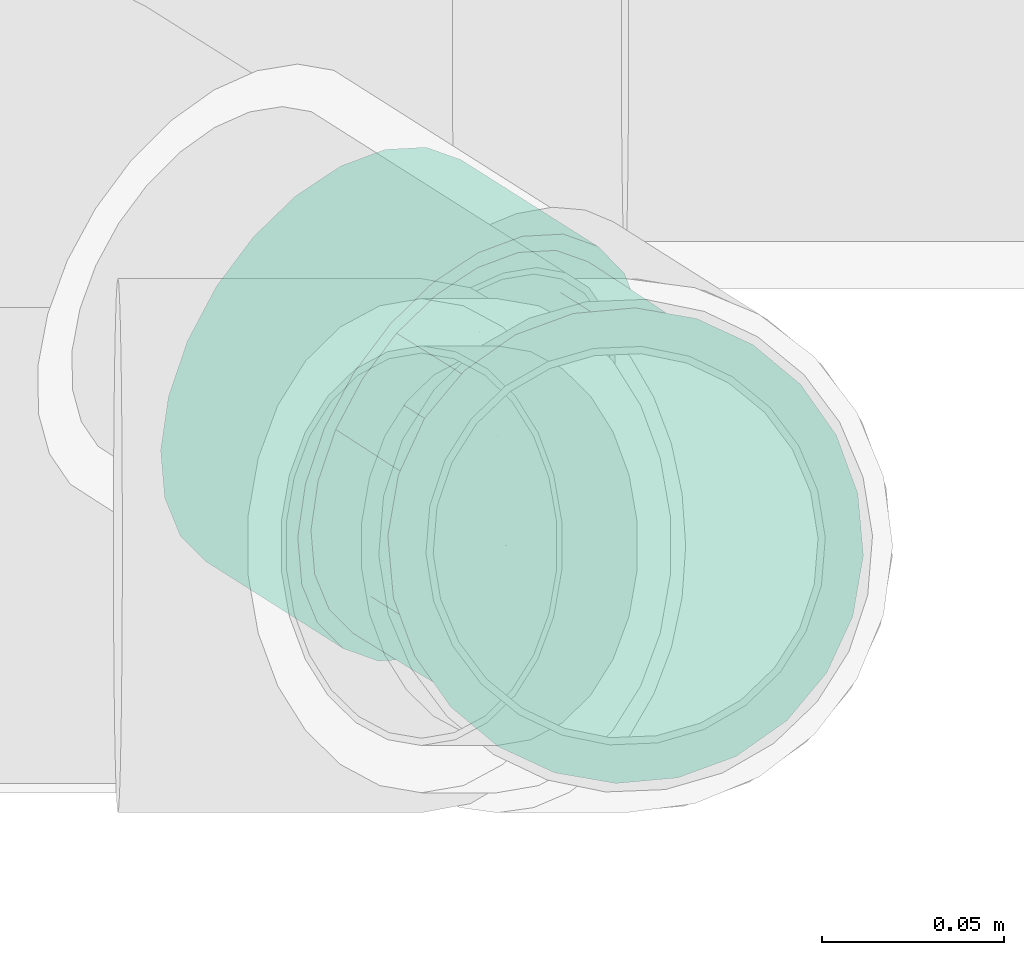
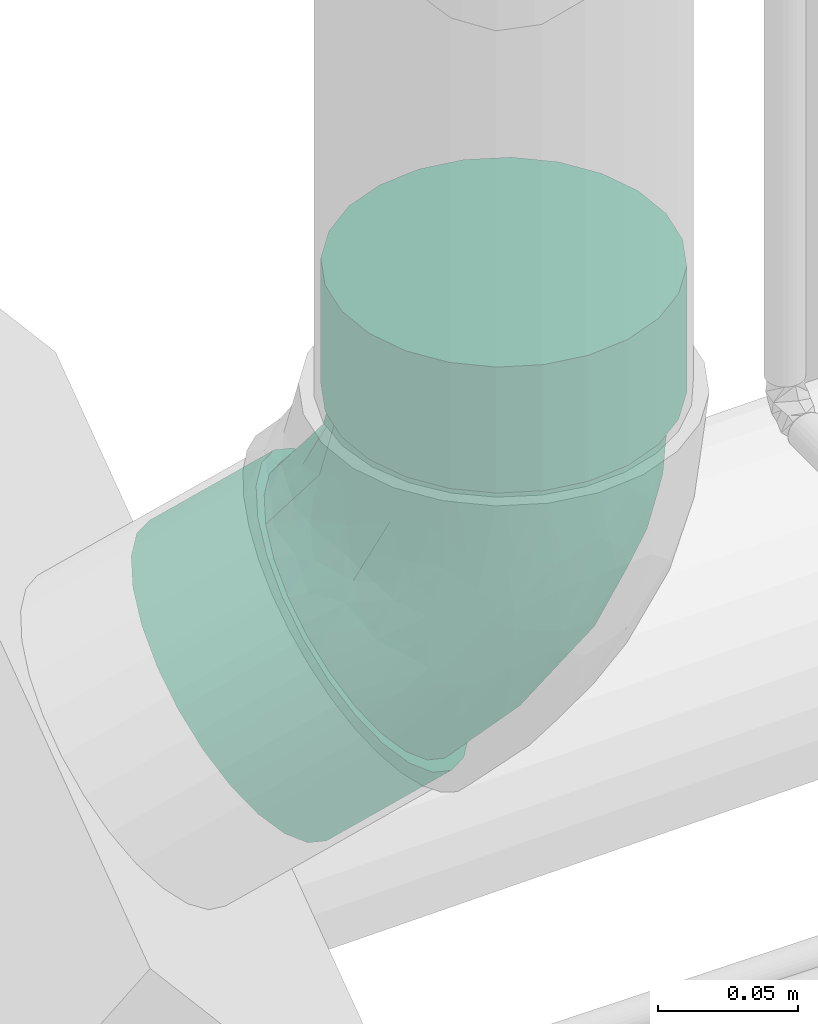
# One storey, part 113 of 156: 1 flow fitting.
"""IFC2X3 building model written with IfcOpenShell, lengths in millimetres."""

from ifc_helpers import new_model, entity, si_unit, converted_unit, derived_unit, direction, frame, origin_with_axes, place, context, subcontext, project, spatial, open_shell, surface_model, source, transform, mapped, type_object, element, save


model = new_model("IFC2X3")

# Units and contexts
model_context = context("Model", 3, precision=0.01, world=frame((0.0, 4.29681676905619e-09, 0.0)), true_north=direction((4.01073788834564e-13, 1.0)))
plan_context = context("Plan", 3, precision=0.01, world=frame((0.0, 4.29681676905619e-09, 0.0)), true_north=direction((4.01073788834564e-13, 1.0)))
body_context = subcontext(model_context, "Body", "Model", "MODEL_VIEW")
ifc_project = project(units=[converted_unit("PLANEANGLEUNIT", "DEGREE", entity("IfcPositiveLengthMeasure", 0.0174532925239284), si_unit("PLANEANGLEUNIT", "RADIAN"), dimensions=[0, 0, 0, 0, 0, 0, 0]), si_unit("AREAUNIT", "SQUARE_METRE"), si_unit("LENGTHUNIT", "METRE", prefix="MILLI"), si_unit("MASSUNIT", "GRAM", prefix="KILO"), si_unit("POWERUNIT", "WATT"), si_unit("PRESSUREUNIT", "PASCAL", prefix="KILO"), si_unit("FORCEUNIT", "NEWTON", prefix="KILO"), si_unit("ELECTRICVOLTAGEUNIT", "VOLT"), si_unit("ELECTRICCURRENTUNIT", "AMPERE"), si_unit("THERMODYNAMICTEMPERATUREUNIT", "DEGREE_CELSIUS"), si_unit("TIMEUNIT", "SECOND"), si_unit("VOLUMEUNIT", "CUBIC_METRE"), derived_unit("LINEARVELOCITYUNIT", [(si_unit("LENGTHUNIT", "METRE"), 1), (si_unit("TIMEUNIT", "SECOND"), -1)]), derived_unit("VOLUMETRICFLOWRATEUNIT", [(si_unit("VOLUMEUNIT", "CUBIC_METRE"), 1), (si_unit("TIMEUNIT", "SECOND"), -1)]), derived_unit("THERMALTRANSMITTANCEUNIT", [(si_unit("POWERUNIT", "WATT"), 1), (si_unit("THERMODYNAMICTEMPERATUREUNIT", "KELVIN"), -1), (si_unit("AREAUNIT", "SQUARE_METRE"), -1)]), derived_unit("SOUNDPRESSUREUNIT", [(si_unit("PRESSUREUNIT", "PASCAL"), 1)])], contexts=[model_context, plan_context])

# Site, building, storey
site_placement = place(None, frame((0.0, -4.29681676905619e-09, 0.0), z_axis=(0.0, 0.0, 1.0), x_axis=(1.0, 0.0, 0.0)))
site = spatial("IfcSite", under=ifc_project, at=site_placement, CompositionType="ELEMENT")
building_placement = place(site_placement, frame((0.0, 4.29681676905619e-09, 0.0), z_axis=(0.0, 0.0, 1.0), x_axis=(1.0, 0.0, 0.0)))
building = spatial("IfcBuilding", under=site, at=building_placement, Name="mc-building", CompositionType="ELEMENT")
storey_placement = place(building_placement, frame((0.0, 0.0, 205200.0), z_axis=(0.0, 0.0, 1.0), x_axis=(1.0, 0.0, 0.0)))
storey = spatial("IfcBuildingStorey", under=building, at=storey_placement, Name="Nivå D + 1,2 m", CompositionType="ELEMENT", Elevation=205200.0)

# Flow fitting
pipe_fitting_type = type_object("IfcPipeFittingType", Name="magi_sewer_bend_001", PredefinedType="BEND")
shared_shape = source(origin_with_axes(), body_context, "Body", "SurfaceModel", [
    surface_model("IfcShellBasedSurfaceModel", [(-117.11514, -16.95265, -63.26814), (-117.11514, -32.75, -56.72466), (-117.11514, -46.3155, -46.3155), (-117.11514, -63.26814, -16.95265), (-117.11514, 56.72466, -32.75), (-117.11514, 65.5, 0.0), (-117.11514, -56.72466, -32.75), (-117.11514, 16.95265, -63.26814), (-117.11514, 46.3155, -46.3155), (-117.11514, 32.75, -56.72466), (-117.11514, 0.0, -65.5), (-117.11514, 63.26814, -16.95265), (-117.11514, -65.5, 0.0), (-117.11514, -63.26814, 16.95265), (-117.11514, -56.72466, 32.75), (-117.11514, -46.3155, 46.3155), (-117.11514, -16.95265, 63.26814), (-117.11514, 0.0, 65.5), (-117.11514, -32.75, 56.72466), (-117.11514, 63.26814, 16.95265), (-117.11514, 46.3155, 46.3155), (-117.11514, 56.72466, 32.75), (-117.11514, 16.95265, 63.26814), (-117.11514, 32.75, 56.72466), (-62.11514, -16.95265, 63.26814), (-62.11514, 16.95265, 63.26814), (-62.11514, 0.0, 65.5), (-62.11514, -46.3155, 46.3155), (-62.11514, -32.75, 56.72466), (-62.11514, -56.72466, 32.75), (-62.11514, -63.26814, 16.95265), (-62.11514, 46.3155, 46.3155), (-62.11514, 32.75, 56.72466), (-62.11514, 63.26814, 16.95265), (-62.11514, 56.72466, 32.75), (-62.11514, 63.26814, -16.95265), (-62.11514, 65.5, 0.0), (-62.11514, -63.26814, -16.95265), (-62.11514, -16.95265, -63.26814), (-62.11514, -46.3155, -46.3155), (-62.11514, -56.72466, -32.75), (-62.11514, -32.75, -56.72466), (-62.11514, 56.72466, -32.75), (-62.11514, 0.0, -65.5), (-62.11514, 46.3155, -46.3155), (-62.11514, 16.95265, -63.26814), (-62.11514, 32.75, -56.72466), (-62.11514, -65.5, 0.0), (16.85363, 132.04079, 16.95265), (22.17063, 128.22678, 32.75), (30.62875, 122.15958, 46.3155), (41.65159, 114.25264, 56.72466), (54.48796, 105.04481, 63.26814), (30.62875, 122.15958, -46.3155), (41.65159, 114.25264, -56.72466), (68.26308, 95.1636, 65.5), (16.85363, 132.04079, -16.95265), (15.04011, 133.34168, 0.0), (22.17063, 128.22678, -32.75), (54.48796, 105.04481, -63.26814), (82.03819, 85.28239, -63.26814), (82.03819, 85.28239, 63.26814), (94.87456, 76.07456, 56.72466), (105.8974, 68.16762, 46.3155), (119.67251, 58.2864, 16.95265), (105.8974, 68.16762, -46.3155), (114.35552, 62.10041, 32.75), (119.67251, 58.2864, -16.95265), (121.48604, 56.98552, 0.0), (94.87456, 76.07456, -56.72466), (68.26308, 95.1636, -65.5), (114.35552, 62.10041, -32.75), (87.61458, 13.59536, 16.95265), (87.61458, 13.59536, -16.95265), (89.42811, 12.29448, 0.0), (73.83947, 23.47658, 46.3155), (82.29758, 17.40937, 32.75), (62.81663, 31.38352, 56.72466), (49.98026, 40.59134, 63.26814), (-15.20429, 87.34975, 16.95265), (49.98026, 40.59134, -63.26814), (73.83947, 23.47658, -46.3155), (82.29758, 17.40937, -32.75), (62.81663, 31.38352, -56.72466), (22.43003, 60.35377, -63.26814), (36.20514, 50.47256, -65.5), (22.43003, 60.35377, 63.26814), (9.59366, 69.5616, 56.72466), (-1.42918, 77.46854, 46.3155), (-9.8873, 83.53574, 32.75), (-1.42918, 77.46854, -46.3155), (9.59366, 69.5616, -56.72466), (-9.8873, 83.53574, -32.75), (-17.01782, 88.65064, 0.0), (-15.20429, 87.34975, -16.95265), (36.20514, 50.47256, 65.5), (-62.11514, 15.65855, -58.43851), (-62.11514, 0.0, -60.5), (-62.11514, 58.43851, -15.65855), (-62.11514, 30.25, -52.39454), (-62.11514, 52.39454, -30.25), (-62.11514, 42.77996, -42.77996), (-62.11514, -60.5, 0.0), (-62.11514, -30.25, -52.39454), (-62.11514, -42.77996, -42.77996), (-62.11514, -15.65855, -58.43851), (-62.11514, -58.43851, -15.65855), (-62.11514, -52.39454, -30.25), (-62.11514, -58.43851, 15.65855), (-62.11514, 58.43851, 15.65855), (-62.11514, 52.39454, 30.25), (-62.11514, 42.77996, 42.77996), (-62.11514, 30.25, 52.39454), (-62.11514, 15.65855, 58.43851), (-62.11514, -52.39454, 30.25), (-62.11514, -42.77996, 42.77996), (-62.11514, -30.25, 52.39454), (-62.11514, -15.65855, 58.43851), (-62.11514, 0.0, 60.5), (-62.11514, 60.5, 0.0), (36.20514, 50.47256, -60.5), (23.48156, 59.59948, -58.43851), (11.62507, 68.10442, -52.39454), (1.44367, 75.40777, -42.77996), (-6.36879, 81.01183, -30.25), (-11.27991, 84.53469, -15.65855), (60.78522, 32.8407, -52.39454), (83.6902, 16.41042, 15.65855), (70.96662, 25.53734, -42.77996), (85.36529, 15.20884, 0.0), (48.92873, 41.34563, -58.43851), (78.77908, 19.93328, -30.25), (83.6902, 16.41042, -15.65855), (-12.955, 85.73628, 0.0), (-11.27991, 84.53469, 15.65855), (-6.36879, 81.01183, 30.25), (11.62507, 68.10442, 52.39454), (1.44367, 75.40777, 42.77996), (36.20514, 50.47256, 60.5), (23.48156, 59.59948, 58.43851), (70.96662, 25.53734, 42.77996), (78.77908, 19.93328, 30.25), (60.78522, 32.8407, 52.39454), (48.92873, 41.34563, 58.43851), (-43.45204, -47.73566, 35.80865), (-30.40216, -53.85446, 21.08461), (-18.34159, -44.07435, 34.38377), (-32.14786, -56.93011, 0.0), (-19.47747, -55.42074, 0.0), (-27.75209, -56.28622, 10.47784), (24.77498, 23.00195, 59.67262), (-23.21878, -20.39894, 54.79292), (-30.82163, -35.41291, 46.65862), (11.79513, -22.97686, 44.63602), (-29.77013, 10.07068, 60.25391), (-1.21836, 2.37336, 59.22726), (-33.1312, -6.72409, 59.67262), (-27.89509, 54.33949, 39.21589), (-23.87759, 65.39657, 28.21522), (-43.65315, 57.4189, 25.65163), (-35.78945, 39.16402, 49.32419), (-47.18148, 48.72133, 37.85379), (-15.81038, 30.79854, 57.23456), (-40.78586, 23.8813, 56.52546), (-12.08848, 66.73626, 37.85379), (11.61569, -41.12006, 19.99968), (16.65667, -31.51517, 33.07858), (-33.51996, 65.29672, 15.85401), (-43.30342, 63.49897, 0.0), (46.74032, 4.40338, 46.65862), (-26.35667, 72.19855, 0.0), (61.48076, -6.68652, 21.08461), (0.64817, -47.944, 0.0), (4.36782, 47.06086, 56.52546), (30.10901, 6.9768, 54.79292), (37.44617, -25.28856, 23.00814), (46.50403, -10.78596, 34.38377), (64.11525, 7.48383, 35.80865), (9.16908, 30.06006, 60.25391), (48.15131, -21.70894, 11.76225), (66.22837, -6.14545, 10.04682), (70.87553, -0.63382, 0.0), (-10.16132, 52.60085, 49.27234), (4.91278, -9.57007, 54.7374), (-10.67642, 20.79762, 59.9188), (20.7738, -40.46725, 0.0), (38.57979, -28.47186, 0.0), (56.38578, -16.47647, 0.0), (64.11525, 7.48383, -35.80865), (-33.51997, 65.29672, -15.85401), (-40.51344, 57.47688, -27.46937), (-36.81884, 38.91626, -49.27234), (-40.78586, 23.8813, -56.52546), (-33.1312, -6.72409, -59.67262), (-29.77013, 10.07068, -60.25391), (-1.21836, 2.37335, -59.22726), (30.10901, 6.9768, -54.79292), (-47.18148, 48.72133, -37.85379), (9.16908, 30.06006, -60.25391), (-10.96265, 51.90881, -49.32419), (-30.40216, -53.85446, -21.08461), (-43.45204, -47.73566, -35.80865), (4.36782, 47.06086, -56.52546), (-33.60905, -57.39682, -10.04682), (-40.79631, -57.96037, 0.0), (46.74032, 4.40338, -46.65862), (-10.42611, -51.77956, -11.76225), (-23.21878, -20.39894, -54.79292), (61.91208, -10.25727, -10.47784), (-30.82163, -35.41291, -46.65862), (24.77498, 23.00195, -59.67262), (-10.67642, 20.79761, -59.9188), (-1.27771, -45.1674, -23.00814), (-18.34159, -44.07435, -34.38377), (11.79514, -22.97687, -44.63602), (-27.89509, 54.33949, -39.21589), (-21.57501, 68.44368, -26.00737), (-12.08849, 66.73626, -37.85379), (-15.81038, 30.79854, -57.23456), (61.48076, -6.68652, -21.08461), (46.50403, -10.78596, -34.38377), (26.64224, -33.40621, -19.99968), (15.89941, -31.90391, -33.07858), (64.99745, -7.06073, 0.0), (4.91278, -9.57007, -54.7374)], [open_shell([[[0, 1, 2]], [[0, 2, 3]], [[4, 0, 5]], [[3, 2, 6]], [[3, 5, 0]], [[7, 8, 9]], [[8, 7, 10]], [[0, 8, 10]], [[0, 4, 8]], [[4, 5, 11]], [[5, 3, 12]], [[13, 14, 15]], [[5, 13, 15]], [[16, 17, 15]], [[16, 15, 18]], [[5, 15, 17]], [[19, 20, 21]], [[22, 19, 5]], [[20, 22, 23]], [[22, 20, 19]], [[5, 17, 22]], [[13, 5, 12]], [[24, 25, 26]], [[27, 24, 28]], [[27, 29, 30]], [[24, 27, 25]], [[30, 25, 27]], [[25, 31, 32]], [[31, 25, 33]], [[31, 33, 34]], [[25, 30, 33]], [[33, 35, 36]], [[33, 30, 37]], [[33, 37, 38]], [[39, 37, 40]], [[39, 41, 38]], [[39, 38, 37]], [[33, 38, 35]], [[42, 43, 44]], [[43, 42, 35]], [[44, 45, 46]], [[45, 44, 43]], [[35, 38, 43]], [[37, 30, 47]], [[35, 11, 36]], [[42, 4, 35]], [[45, 43, 7]], [[44, 8, 42]], [[35, 4, 11]], [[11, 5, 36]], [[9, 46, 7]], [[9, 8, 44]], [[46, 45, 7]], [[8, 4, 42]], [[44, 46, 9]], [[43, 10, 7]], [[0, 38, 41]], [[39, 1, 41]], [[6, 40, 37]], [[39, 40, 2]], [[3, 37, 47]], [[38, 0, 10]], [[41, 1, 0]], [[39, 2, 1]], [[40, 6, 2]], [[3, 6, 37]], [[47, 12, 3]], [[38, 10, 43]], [[30, 13, 47]], [[29, 14, 30]], [[28, 18, 27]], [[27, 15, 29]], [[30, 14, 13]], [[13, 12, 47]], [[17, 16, 24]], [[16, 18, 28]], [[15, 27, 18]], [[15, 14, 29]], [[24, 16, 28]], [[24, 26, 17]], [[22, 25, 32]], [[31, 23, 32]], [[21, 34, 33]], [[31, 34, 20]], [[19, 33, 36]], [[25, 22, 17]], [[32, 23, 22]], [[31, 20, 23]], [[34, 21, 20]], [[19, 21, 33]], [[36, 5, 19]], [[25, 17, 26]], [[48, 49, 50]], [[48, 50, 51]], [[48, 52, 53]], [[52, 48, 51]], [[54, 52, 55]], [[48, 56, 57]], [[48, 58, 56]], [[52, 54, 53]], [[58, 48, 53]], [[59, 54, 55]], [[55, 60, 59]], [[61, 62, 63]], [[61, 63, 64]], [[61, 64, 65]], [[64, 63, 66]], [[67, 64, 68]], [[60, 65, 69]], [[70, 59, 60]], [[65, 67, 71]], [[60, 55, 65]], [[67, 65, 64]], [[55, 61, 65]], [[72, 73, 74]], [[75, 72, 76]], [[75, 77, 78]], [[75, 78, 72]], [[79, 80, 72]], [[73, 81, 82]], [[81, 73, 80]], [[81, 80, 83]], [[73, 72, 80]], [[80, 84, 85]], [[79, 72, 78]], [[86, 79, 78]], [[79, 86, 87]], [[88, 89, 79]], [[88, 79, 87]], [[80, 79, 90]], [[80, 91, 84]], [[90, 91, 80]], [[92, 93, 94]], [[92, 90, 79]], [[93, 92, 79]], [[86, 78, 95]], [[84, 59, 85]], [[91, 54, 84]], [[94, 93, 56]], [[90, 53, 91]], [[84, 54, 59]], [[59, 70, 85]], [[58, 92, 56]], [[58, 53, 90]], [[92, 94, 56]], [[53, 54, 91]], [[90, 92, 58]], [[93, 57, 56]], [[48, 79, 89]], [[88, 49, 89]], [[51, 87, 86]], [[88, 87, 50]], [[52, 86, 95]], [[79, 48, 57]], [[89, 49, 48]], [[88, 50, 49]], [[87, 51, 50]], [[52, 51, 86]], [[95, 55, 52]], [[79, 57, 93]], [[78, 61, 95]], [[77, 62, 78]], [[76, 66, 75]], [[75, 63, 77]], [[78, 62, 61]], [[61, 55, 95]], [[68, 64, 72]], [[64, 66, 76]], [[63, 75, 66]], [[63, 62, 77]], [[72, 64, 76]], [[72, 74, 68]], [[67, 73, 82]], [[81, 71, 82]], [[69, 83, 80]], [[81, 83, 65]], [[60, 80, 85]], [[73, 67, 68]], [[82, 71, 67]], [[81, 65, 71]], [[83, 69, 65]], [[60, 69, 80]], [[85, 70, 60]], [[73, 68, 74]], [[96, 97, 98]], [[99, 96, 98]], [[98, 100, 101]], [[99, 98, 101]], [[102, 98, 97]], [[103, 104, 105]], [[104, 97, 105]], [[106, 102, 107]], [[104, 107, 102]], [[104, 102, 97]], [[102, 108, 98]], [[109, 98, 108]], [[110, 109, 111]], [[112, 109, 108]], [[111, 109, 112]], [[113, 112, 108]], [[114, 115, 108]], [[116, 108, 115]], [[117, 118, 116]], [[108, 116, 118]], [[118, 113, 108]], [[119, 98, 109]], [[120, 121, 122]], [[120, 122, 123]], [[123, 124, 125]], [[123, 125, 120]], [[126, 120, 127]], [[128, 127, 129]], [[126, 130, 120]], [[131, 129, 132]], [[129, 131, 128]], [[128, 126, 127]], [[127, 120, 125]], [[133, 134, 135]], [[133, 135, 136]], [[136, 127, 125]], [[136, 135, 137]], [[138, 136, 139]], [[127, 140, 141]], [[140, 127, 142]], [[142, 138, 143]], [[138, 142, 127]], [[127, 136, 138]], [[136, 125, 133]], [[144, 145, 146]], [[147, 148, 149]], [[143, 138, 150]], [[117, 116, 151]], [[116, 152, 151]], [[151, 152, 153]], [[113, 118, 154]], [[155, 156, 151]], [[156, 118, 117]], [[157, 158, 159]], [[144, 152, 115]], [[110, 159, 109]], [[111, 112, 160]], [[157, 161, 160]], [[145, 114, 108]], [[161, 110, 111]], [[162, 163, 154]], [[137, 135, 164]], [[146, 165, 166]], [[109, 167, 168]], [[140, 142, 169]], [[168, 119, 109]], [[170, 167, 134]], [[141, 171, 127]], [[113, 163, 112]], [[172, 149, 148]], [[145, 165, 146]], [[139, 136, 173]], [[174, 143, 150]], [[175, 171, 176]], [[163, 160, 112]], [[174, 142, 143]], [[141, 140, 177]], [[139, 173, 178]], [[175, 179, 171]], [[171, 141, 177]], [[108, 147, 149]], [[174, 169, 142]], [[149, 172, 165]], [[180, 181, 127]], [[165, 175, 166]], [[162, 173, 182]], [[183, 155, 151]], [[168, 167, 170]], [[115, 114, 144]], [[133, 170, 134]], [[155, 183, 174]], [[134, 167, 158]], [[154, 184, 162]], [[137, 182, 136]], [[156, 154, 118]], [[158, 157, 164]], [[184, 155, 178]], [[157, 160, 182]], [[139, 178, 138]], [[169, 153, 176]], [[150, 178, 155]], [[179, 185, 186]], [[180, 171, 179]], [[116, 115, 152]], [[153, 152, 146]], [[153, 169, 174]], [[177, 169, 176]], [[182, 137, 164]], [[162, 182, 160]], [[151, 156, 117]], [[154, 156, 155]], [[178, 150, 138]], [[174, 150, 155]], [[154, 163, 113]], [[160, 163, 162]], [[182, 173, 136]], [[178, 173, 162]], [[166, 176, 153]], [[108, 102, 147]], [[176, 166, 175]], [[146, 166, 153]], [[179, 175, 165]], [[180, 179, 187]], [[181, 129, 127]], [[127, 171, 180]], [[180, 187, 181]], [[185, 179, 165]], [[186, 187, 179]], [[108, 149, 145]], [[134, 158, 135]], [[159, 158, 167]], [[109, 159, 167]], [[159, 110, 161]], [[160, 161, 111]], [[159, 161, 157]], [[158, 164, 135]], [[182, 164, 157]], [[145, 144, 114]], [[152, 144, 146]], [[169, 177, 140]], [[171, 177, 176]], [[151, 153, 183]], [[153, 174, 183]], [[155, 184, 154]], [[178, 162, 184]], [[165, 145, 149]], [[172, 185, 165]], [[128, 131, 188]], [[98, 189, 190]], [[99, 101, 191]], [[192, 96, 99]], [[119, 168, 98]], [[193, 194, 195]], [[98, 168, 189]], [[130, 126, 196]], [[100, 197, 101]], [[121, 120, 198]], [[123, 122, 199]], [[97, 96, 194]], [[200, 107, 201]], [[202, 199, 122]], [[203, 204, 106]], [[188, 205, 128]], [[107, 104, 201]], [[203, 200, 206]], [[103, 105, 207]], [[186, 208, 187]], [[103, 207, 209]], [[103, 209, 104]], [[193, 105, 97]], [[126, 128, 205]], [[210, 198, 120]], [[211, 195, 194]], [[189, 168, 170]], [[212, 200, 213]], [[170, 133, 125]], [[209, 214, 213]], [[215, 190, 216]], [[192, 194, 96]], [[199, 191, 215]], [[123, 217, 124]], [[202, 122, 121]], [[193, 207, 105]], [[198, 218, 202]], [[100, 190, 197]], [[216, 125, 124]], [[217, 199, 215]], [[219, 131, 132]], [[130, 210, 120]], [[205, 196, 126]], [[107, 200, 106]], [[220, 221, 222]], [[220, 219, 221]], [[206, 185, 172]], [[195, 210, 196]], [[220, 188, 219]], [[198, 211, 218]], [[208, 223, 187]], [[132, 223, 208]], [[208, 186, 221]], [[205, 214, 196]], [[224, 195, 196]], [[195, 224, 207]], [[212, 206, 200]], [[189, 170, 125]], [[221, 212, 222]], [[218, 192, 191]], [[214, 205, 220]], [[214, 209, 207]], [[201, 209, 213]], [[191, 101, 197]], [[218, 191, 199]], [[194, 193, 97]], [[207, 193, 195]], [[196, 210, 130]], [[198, 210, 195]], [[191, 192, 99]], [[194, 192, 218]], [[198, 202, 121]], [[199, 202, 218]], [[222, 213, 214]], [[132, 129, 223]], [[213, 222, 212]], [[220, 222, 214]], [[206, 212, 221]], [[203, 206, 148]], [[204, 102, 106]], [[106, 200, 203]], [[203, 148, 204]], [[185, 206, 221]], [[172, 148, 206]], [[132, 208, 219]], [[100, 98, 190]], [[191, 197, 215]], [[216, 190, 189]], [[215, 197, 190]], [[125, 216, 189]], [[216, 124, 217]], [[199, 217, 123]], [[216, 217, 215]], [[219, 188, 131]], [[205, 188, 220]], [[209, 201, 104]], [[200, 201, 213]], [[196, 214, 224]], [[214, 207, 224]], [[195, 211, 198]], [[194, 218, 211]], [[221, 219, 208]], [[186, 185, 221]]])]),
])
flow_fitting_placement = place(storey_placement, frame((325018.86668, 462586.08797, 4351.56729000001), z_axis=(0.534985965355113, 0.844860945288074, 0.0), x_axis=(0.0, 0.0, -1.0)))
element("IfcFlowFitting", 1, at=flow_fitting_placement, inside=storey, type_object=pipe_fitting_type, Name="magi_sewer_bend_001", context=body_context, shape_type="MappedRepresentation", body=[
    mapped(shared_shape, transform((0.0, 0.0, 0.0), scale=1.0)),
])

save(model, "model.ifc")
